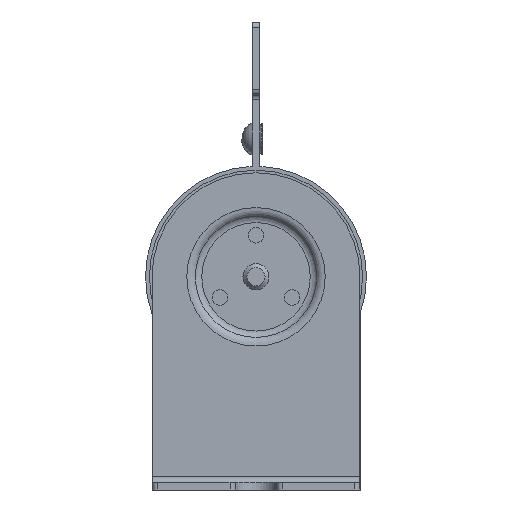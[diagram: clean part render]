
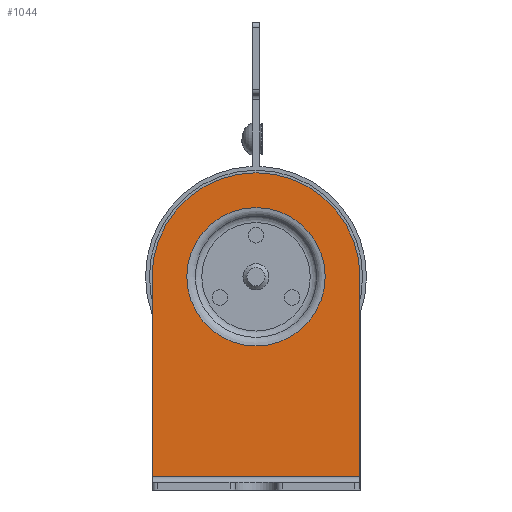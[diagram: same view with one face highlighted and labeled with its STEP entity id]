
A CAD part, left-side view. The second image highlights one B-rep face of the part: STEP entity #1044.
In plain terms, the highlighted planar face has unit normal (-1, 0, 0) as drawn and (1, 0, 0) by its records, which use the part's own axes.
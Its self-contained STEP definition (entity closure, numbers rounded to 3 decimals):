
#1044=ADVANCED_FACE('',(#1804,#1806),#1808,.F.);
#1804=FACE_BOUND('',#1805,.T.);
#1805=EDGE_LOOP('',(#2709,#2710,#2711,#2712));
#1806=FACE_BOUND('',#1807,.T.);
#1807=EDGE_LOOP('',(#2713));
#1808=PLANE('',#1809);
#1809=AXIS2_PLACEMENT_3D('',#1810,#1811,#1812);
#1810=CARTESIAN_POINT('',(1.5,0.,0.));
#1811=DIRECTION('',(-1.,0.,0.));
#1812=DIRECTION('',(0.,-1.,0.));
#2709=ORIENTED_EDGE('',*,*,#3132,.T.);
#2710=ORIENTED_EDGE('',*,*,#3139,.F.);
#2711=ORIENTED_EDGE('',*,*,#3140,.F.);
#2712=ORIENTED_EDGE('',*,*,#3141,.F.);
#2713=ORIENTED_EDGE('',*,*,#3142,.T.);
#3132=EDGE_CURVE('',#3399,#3397,#3400,.T.);
#3139=EDGE_CURVE('',#3409,#3397,#3410,.T.);
#3140=EDGE_CURVE('',#3411,#3409,#3412,.T.);
#3141=EDGE_CURVE('',#3399,#3411,#3413,.T.);
#3142=EDGE_CURVE('',#3414,#3414,#3415,.T.);
#3397=VERTEX_POINT('',#3907);
#3399=VERTEX_POINT('',#3912);
#3400=LINE('',#3913,#3914);
#3409=VERTEX_POINT('',#3939);
#3410=LINE('',#3940,#3941);
#3411=VERTEX_POINT('',#3943);
#3412=CIRCLE('',#3944,20.);
#3413=LINE('',#3948,#3949);
#3414=VERTEX_POINT('',#3951);
#3415=CIRCLE('',#3952,13.306);
#3907=CARTESIAN_POINT('',(1.5,20.,-28.));
#3912=CARTESIAN_POINT('',(1.5,-20.,-28.));
#3913=CARTESIAN_POINT('',(1.5,-20.,-28.));
#3914=VECTOR('',#3915,1.);
#3915=DIRECTION('',(0.,1.,0.));
#3939=CARTESIAN_POINT('',(1.5,20.,10.5));
#3940=CARTESIAN_POINT('',(1.5,20.,10.5));
#3941=VECTOR('',#3942,1.);
#3942=DIRECTION('',(0.,0.,-1.));
#3943=CARTESIAN_POINT('',(1.5,-20.,10.5));
#3944=AXIS2_PLACEMENT_3D('',#3945,#3946,#3947);
#3945=CARTESIAN_POINT('',(1.5,0.,10.5));
#3946=DIRECTION('',(-1.,0.,0.));
#3947=DIRECTION('',(0.,-1.,0.));
#3948=CARTESIAN_POINT('',(1.5,-20.,-28.));
#3949=VECTOR('',#3950,1.);
#3950=DIRECTION('',(0.,0.,1.));
#3951=CARTESIAN_POINT('',(1.5,-13.306,10.5));
#3952=AXIS2_PLACEMENT_3D('',#3953,#3954,#3955);
#3953=CARTESIAN_POINT('',(1.5,0.,10.5));
#3954=DIRECTION('',(-1.,0.,0.));
#3955=DIRECTION('',(0.,-1.,0.));
